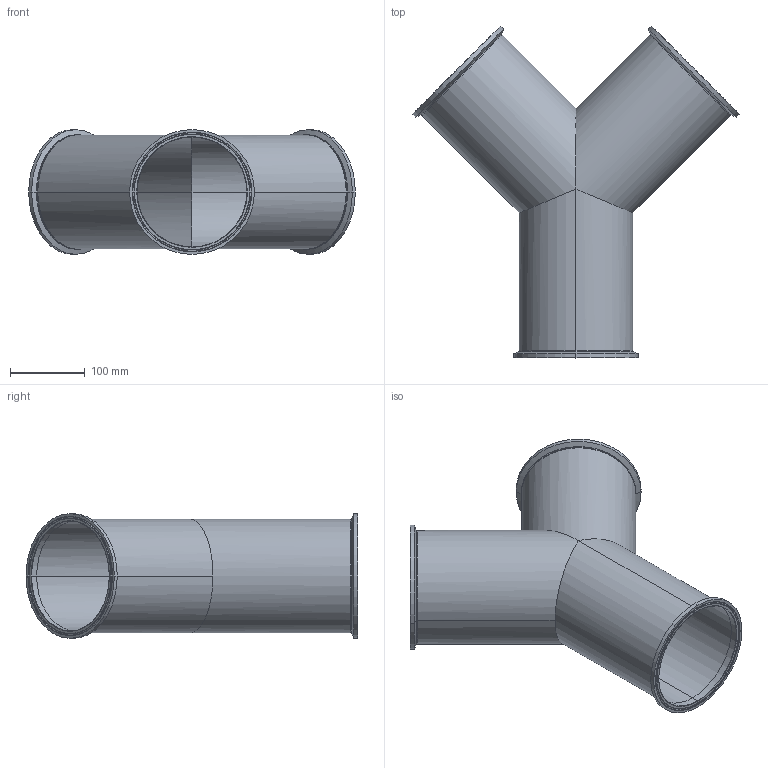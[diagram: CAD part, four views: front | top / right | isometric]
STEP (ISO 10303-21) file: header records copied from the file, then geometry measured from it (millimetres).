
FILE_DESCRIPTION (( 'STEP AP214' ), '1' );
FILE_NAME ('TEG28B6L6.0-...STEP', '2016-05-25T04:48:05', ( 'eran' ), ( '' ), 'SwSTEP 2.0', 'SolidWorks 2016', '' );
FILE_SCHEMA (( 'AUTOMOTIVE_DESIGN' ));
Length unit declared in the file: millimetre
Products named in the file (1): TEG28B6L6.0-..
Bounding box: 436.76 x 443.78 x 166.88 mm (x, y, z)
Volume: 840196 mm3; surface area: 585366.1 mm2
Topology: 4 solids, 4 shells, 90 faces, 200 edges, 120 vertices
Faces by surface type: cylinder 30, bspline 30, cone 18, plane 12
Entity records: 5812 total; most frequent: CARTESIAN_POINT 3831, DIRECTION 414, ORIENTED_EDGE 400, EDGE_CURVE 200, AXIS2_PLACEMENT_3D 183, CIRCLE 122, VERTEX_POINT 120, EDGE_LOOP 102
